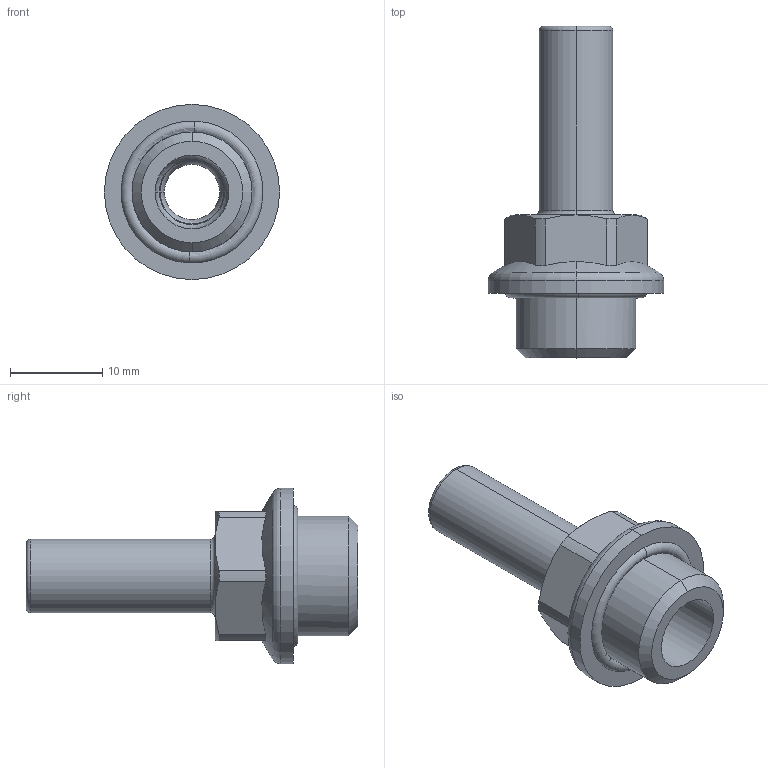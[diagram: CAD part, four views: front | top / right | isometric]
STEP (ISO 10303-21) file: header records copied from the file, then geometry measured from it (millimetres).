
FILE_DESCRIPTION (( 'STEP AP214' ), '1' );
FILE_NAME ('5460000006A.STEP', '2024-09-20T12:07:09', ( '' ), ( '' ), 'SwSTEP 2.0', 'SolidWorks 2020', '' );
FILE_SCHEMA (( 'AUTOMOTIVE_DESIGN' ));
Length unit declared in the file: millimetre
Products named in the file (1): 5460000006A
Bounding box: 19 x 36 x 19 mm (x, y, z)
Volume: 2383.6 mm3; surface area: 2391.7 mm2
Topology: 1 solids, 1 shells, 50 faces, 114 edges, 68 vertices
Faces by surface type: cylinder 16, torus 12, cone 12, plane 10
Entity records: 2064 total; most frequent: CARTESIAN_POINT 337, DIRECTION 262, ORIENTED_EDGE 228, AXIS2_PLACEMENT_3D 117, EDGE_CURVE 114, VERTEX_POINT 68, CIRCLE 66, EDGE_LOOP 54
